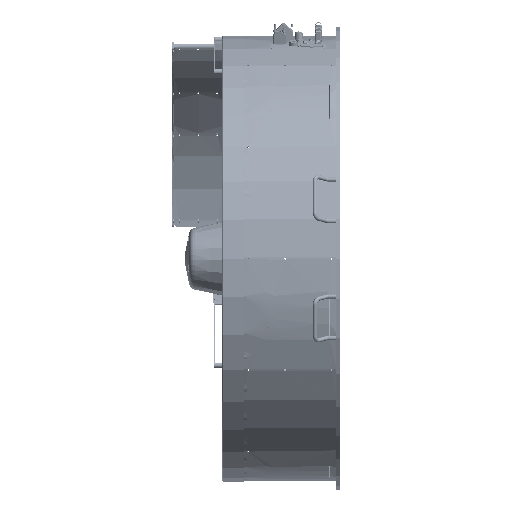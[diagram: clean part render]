
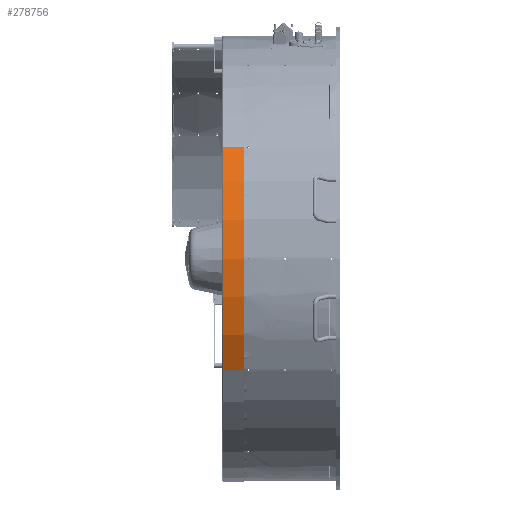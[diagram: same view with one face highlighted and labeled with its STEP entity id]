
A CAD part, left-side view. The second image highlights one B-rep face of the part: STEP entity #278756.
In plain terms, the highlighted cylindrical face has radius 622 mm (diameter 1244 mm), a partial arc.
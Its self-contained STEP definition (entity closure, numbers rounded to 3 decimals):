
#10245 = ORIENTED_EDGE ( 'NONE', *, *, #81443, .F. ) ;
#20549 = EDGE_LOOP ( 'NONE', ( #10245, #134940, #24528, #72312 ) ) ;
#24528 = ORIENTED_EDGE ( 'NONE', *, *, #296805, .T. ) ;
#39623 = AXIS2_PLACEMENT_3D ( 'NONE', #339088, #187560, #157634 ) ;
#69772 = CARTESIAN_POINT ( 'NONE',  ( 622., 0., 59. ) ) ;
#72312 = ORIENTED_EDGE ( 'NONE', *, *, #386718, .T. ) ;
#81443 = EDGE_CURVE ( 'NONE', #294077, #166469, #142564, .T. ) ;
#100023 = VECTOR ( 'NONE', #354118, 1000. ) ;
#113605 = VERTEX_POINT ( 'NONE', #336166 ) ;
#134940 = ORIENTED_EDGE ( 'NONE', *, *, #264298, .T. ) ;
#142564 = LINE ( 'NONE', #296018, #389970 ) ;
#156826 = AXIS2_PLACEMENT_3D ( 'NONE', #377532, #205433, #297041 ) ;
#157634 = DIRECTION ( 'NONE',  ( 1., 0., 0. ) ) ;
#166469 = VERTEX_POINT ( 'NONE', #301426 ) ;
#187560 = DIRECTION ( 'NONE',  ( 0., 0., -1. ) ) ;
#205433 = DIRECTION ( 'NONE',  ( 0., 0., 1. ) ) ;
#208495 = CARTESIAN_POINT ( 'NONE',  ( 311., -538.668, 60. ) ) ;
#211678 = CIRCLE ( 'NONE', #39623, 622. ) ;
#223376 = DIRECTION ( 'NONE',  ( 0., 0., -1. ) ) ;
#230217 = CARTESIAN_POINT ( 'NONE',  ( 311., -538.668, 1. ) ) ;
#262383 = LINE ( 'NONE', #208495, #100023 ) ;
#264298 = EDGE_CURVE ( 'NONE', #294077, #113605, #211678, .T. ) ;
#271907 = AXIS2_PLACEMENT_3D ( 'NONE', #283181, #223376, #281223 ) ;
#278756 = ADVANCED_FACE ( 'NONE', ( #289115 ), #317073, .T. ) ;
#281223 = DIRECTION ( 'NONE',  ( -1., 0., 0. ) ) ;
#282472 = VERTEX_POINT ( 'NONE', #230217 ) ;
#283181 = CARTESIAN_POINT ( 'NONE',  ( 0., 0., 60. ) ) ;
#289115 = FACE_OUTER_BOUND ( 'NONE', #20549, .T. ) ;
#294077 = VERTEX_POINT ( 'NONE', #69772 ) ;
#296018 = CARTESIAN_POINT ( 'NONE',  ( 622., 0., 60. ) ) ;
#296805 = EDGE_CURVE ( 'NONE', #113605, #282472, #262383, .T. ) ;
#297041 = DIRECTION ( 'NONE',  ( 1., 0., 0. ) ) ;
#301426 = CARTESIAN_POINT ( 'NONE',  ( 622., 0., 1. ) ) ;
#301947 = DIRECTION ( 'NONE',  ( 0., 0., -1. ) ) ;
#317073 = CYLINDRICAL_SURFACE ( 'NONE', #271907, 622. ) ;
#336166 = CARTESIAN_POINT ( 'NONE',  ( 311., -538.668, 59. ) ) ;
#339088 = CARTESIAN_POINT ( 'NONE',  ( 0., 0., 59. ) ) ;
#354118 = DIRECTION ( 'NONE',  ( 0., 0., -1. ) ) ;
#377532 = CARTESIAN_POINT ( 'NONE',  ( 0., 0., 1. ) ) ;
#386718 = EDGE_CURVE ( 'NONE', #282472, #166469, #392490, .T. ) ;
#389970 = VECTOR ( 'NONE', #301947, 1000. ) ;
#392490 = CIRCLE ( 'NONE', #156826, 622. ) ;
